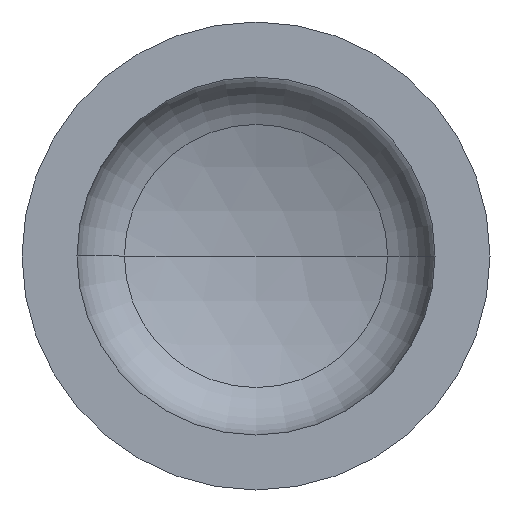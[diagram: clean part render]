
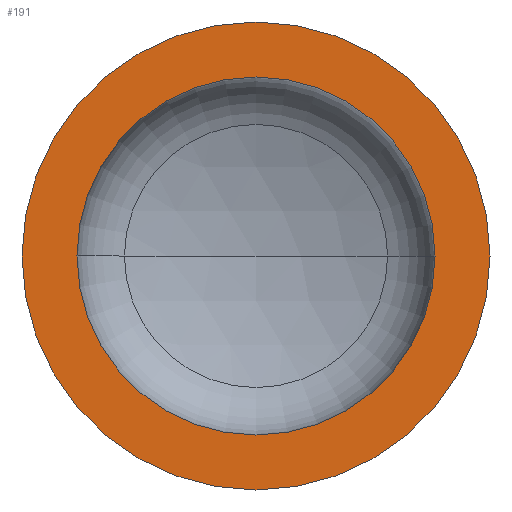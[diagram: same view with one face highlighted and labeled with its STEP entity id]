
A CAD part, front view. The second image highlights one B-rep face of the part: STEP entity #191.
In plain terms, the highlighted planar face has unit normal (0, -1, 0).
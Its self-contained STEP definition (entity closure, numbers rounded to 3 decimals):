
#12 = EDGE_LOOP ( 'NONE', ( #100, #139 ) ) ;
#14 = AXIS2_PLACEMENT_3D ( 'NONE', #157, #385, #260 ) ;
#24 = ORIENTED_EDGE ( 'NONE', *, *, #292, .F. ) ;
#40 = AXIS2_PLACEMENT_3D ( 'NONE', #210, #343, #214 ) ;
#42 = AXIS2_PLACEMENT_3D ( 'NONE', #165, #161, #160 ) ;
#50 = AXIS2_PLACEMENT_3D ( 'NONE', #280, #171, #180 ) ;
#64 = VERTEX_POINT ( 'NONE', #229 ) ;
#66 = AXIS2_PLACEMENT_3D ( 'NONE', #223, #220, #334 ) ;
#67 = EDGE_CURVE ( 'NONE', #64, #332, #86, .T. ) ;
#72 = VERTEX_POINT ( 'NONE', #277 ) ;
#78 = EDGE_LOOP ( 'NONE', ( #133, #24 ) ) ;
#83 = EDGE_CURVE ( 'NONE', #332, #64, #299, .T. ) ;
#86 = CIRCLE ( 'NONE', #66, 400. ) ;
#92 = VERTEX_POINT ( 'NONE', #341 ) ;
#100 = ORIENTED_EDGE ( 'NONE', *, *, #67, .T. ) ;
#133 = ORIENTED_EDGE ( 'NONE', *, *, #337, .F. ) ;
#139 = ORIENTED_EDGE ( 'NONE', *, *, #83, .T. ) ;
#157 = CARTESIAN_POINT ( 'NONE',  ( 0., 0., 0. ) ) ;
#160 = DIRECTION ( 'NONE',  ( 1., 0., 0. ) ) ;
#161 = DIRECTION ( 'NONE',  ( 0., -1., 0. ) ) ;
#164 = FACE_BOUND ( 'NONE', #78, .T. ) ;
#165 = CARTESIAN_POINT ( 'NONE',  ( 0., 0., 0. ) ) ;
#171 = DIRECTION ( 'NONE',  ( 0., -1., 0. ) ) ;
#175 = FACE_OUTER_BOUND ( 'NONE', #12, .T. ) ;
#178 = PLANE ( 'NONE',  #40 ) ;
#180 = DIRECTION ( 'NONE',  ( 1., 0., 0. ) ) ;
#191 = ADVANCED_FACE ( 'NONE', ( #164, #175 ), #178, .F. ) ;
#210 = CARTESIAN_POINT ( 'NONE',  ( -400., 0., 0. ) ) ;
#214 = DIRECTION ( 'NONE',  ( -1., 0., 0. ) ) ;
#220 = DIRECTION ( 'NONE',  ( 0., -1., 0. ) ) ;
#223 = CARTESIAN_POINT ( 'NONE',  ( 0., 0., 0. ) ) ;
#229 = CARTESIAN_POINT ( 'NONE',  ( 400., 0., 0. ) ) ;
#260 = DIRECTION ( 'NONE',  ( 1., 0., 0. ) ) ;
#277 = CARTESIAN_POINT ( 'NONE',  ( 306., 0., 0. ) ) ;
#280 = CARTESIAN_POINT ( 'NONE',  ( 0., 0., 0. ) ) ;
#292 = EDGE_CURVE ( 'NONE', #92, #72, #347, .T. ) ;
#299 = CIRCLE ( 'NONE', #50, 400. ) ;
#332 = VERTEX_POINT ( 'NONE', #380 ) ;
#334 = DIRECTION ( 'NONE',  ( 1., 0., 0. ) ) ;
#337 = EDGE_CURVE ( 'NONE', #72, #92, #388, .T. ) ;
#341 = CARTESIAN_POINT ( 'NONE',  ( -306., 0., 0. ) ) ;
#343 = DIRECTION ( 'NONE',  ( 0., 1., 0. ) ) ;
#347 = CIRCLE ( 'NONE', #42, 306. ) ;
#380 = CARTESIAN_POINT ( 'NONE',  ( -400., 0., 0. ) ) ;
#385 = DIRECTION ( 'NONE',  ( 0., -1., 0. ) ) ;
#388 = CIRCLE ( 'NONE', #14, 306. ) ;
